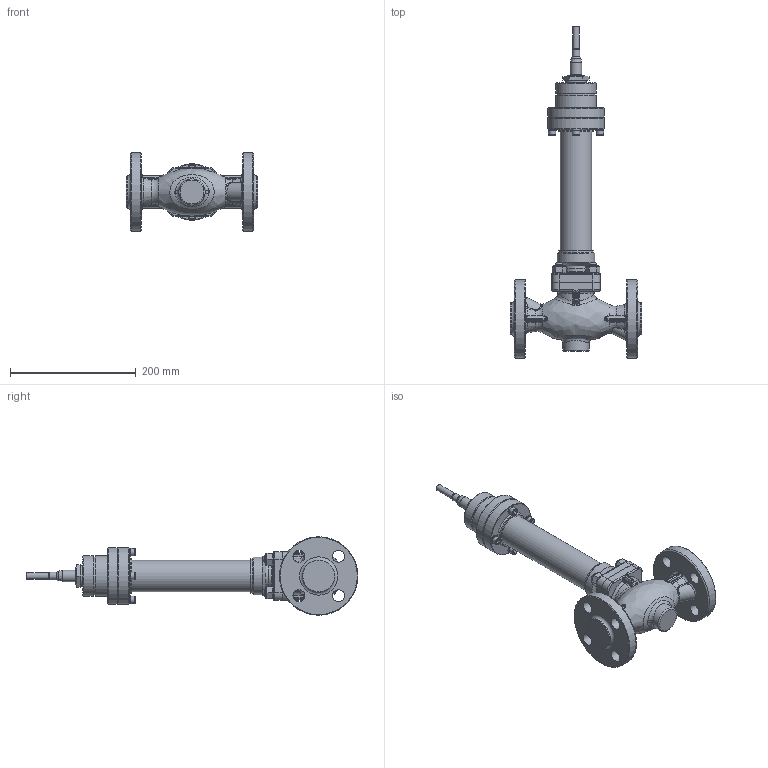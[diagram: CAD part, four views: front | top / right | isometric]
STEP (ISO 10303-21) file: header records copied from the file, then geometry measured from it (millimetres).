
FILE_DESCRIPTION(/* description */ (''),/* implementation_level */ '2;1');
FILE_NAME(/* name */ 'CV3xx_NPS_1_priruba_CL600_vlnovec.stp',/* time_stamp */ '2015-08-11T10:11:21+02:00',/* author */ (''),/* organization */ (''),/* preprocessor_version */ 'ST-DEVELOPER v15',/* originating_system */ 'SIEMENS PLM Software NX 8.5',/* authorisation */ '');
FILE_SCHEMA (('AP203_CONFIGURATION_CONTROLLED_3D_DESIGN_OF_MECHANICAL_PARTS_AND_ASSEMBLIES_MIM_LF { 1 0 10303 403 2 1 2}'));
Length unit declared in the file: millimetre
Products named in the file (1): adam1354300Cul9t
Bounding box: 210 x 528.5 x 125 mm (x, y, z)
Volume: 1944402.6 mm3; surface area: 213274.4 mm2
Topology: 1 solids, 1 shells, 605 faces, 1422 edges, 852 vertices
Faces by surface type: plane 171, cylinder 157, bspline 120, cone 91, torus 58, sphere 8
Full cylindrical faces by diameter (mm): 7 x4, 7.76 x4, 9 x4, 10 x1, 11.64 x4, 12 x9, 14 x4, 18 x1, 19 x8, 19.1 x8, 27 x1, 33 x1, 41 x1, 42 x2, 50 x1, 50.3 x2, 50.8 x2, 55 x2, 58 x2, 60 x1, 61.6 x1, 64 x1, 65 x1, 90 x2, 125 x2
Entity records: 19290 total; most frequent: CARTESIAN_POINT 7005, ORIENTED_EDGE 2468, DIRECTION 2422, EDGE_CURVE 1234, AXIS2_PLACEMENT_3D 1061, EDGE_LOOP 798, VERTEX_POINT 784, ADVANCED_FACE 605
